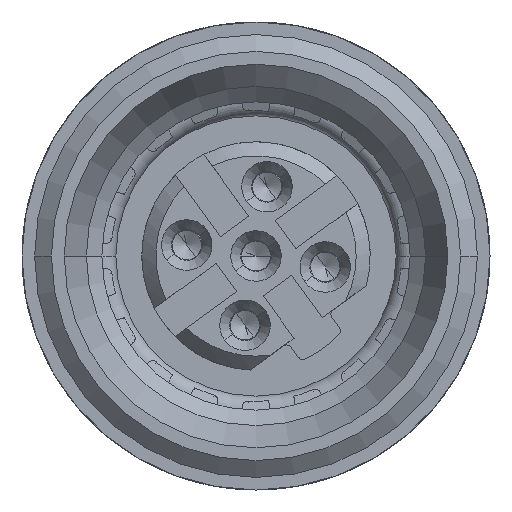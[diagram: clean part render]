
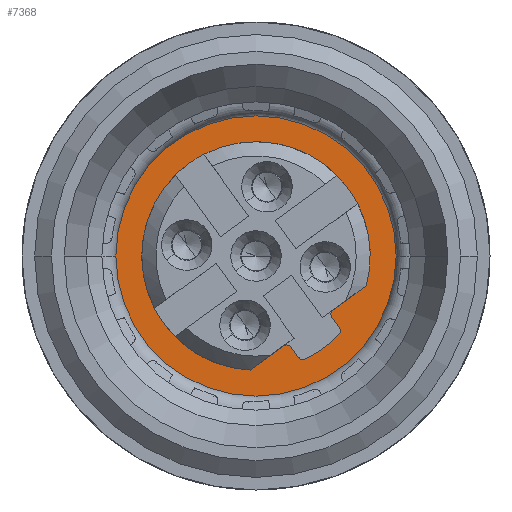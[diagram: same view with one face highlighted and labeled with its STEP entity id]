
A CAD part, left-side view. The second image highlights one B-rep face of the part: STEP entity #7368.
In plain terms, the highlighted planar face has unit normal (-1, 0, 0) as drawn and (0, 0, 1) by its records, which use the part's own axes.
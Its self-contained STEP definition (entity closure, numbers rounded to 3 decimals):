
#5625=CARTESIAN_POINT('',(0.,0.,-9.2));
#5626=DIRECTION('',(0.,0.,-1.));
#5627=DIRECTION('',(0.,1.,0.));
#5628=AXIS2_PLACEMENT_3D('',#5625,#5626,#5627);
#5630=CARTESIAN_POINT('',(0.,0.,-9.2));
#5631=DIRECTION('',(0.,0.,-1.));
#5632=DIRECTION('',(0.,-1.,0.));
#5633=AXIS2_PLACEMENT_3D('',#5630,#5631,#5632);
#5635=CARTESIAN_POINT('',(0.,0.,-9.2));
#5636=DIRECTION('',(0.,0.,1.));
#5637=DIRECTION('',(0.181,0.984,0.));
#5638=AXIS2_PLACEMENT_3D('',#5635,#5636,#5637);
#5640=CARTESIAN_POINT('',(-0.7,3.811,-9.2));
#5641=DIRECTION('',(0.,0.,1.));
#5642=DIRECTION('',(-0.181,0.984,0.));
#5643=AXIS2_PLACEMENT_3D('',#5640,#5641,#5642);
#5645=DIRECTION('',(0.,-1.,0.));
#5646=VECTOR('',#5645,0.441);
#5647=CARTESIAN_POINT('',(-0.9,3.811,-9.2));
#5648=LINE('',#5647,#5646);
#5649=CARTESIAN_POINT('',(-1.1,3.37,-9.2));
#5650=DIRECTION('',(0.,0.,-1.));
#5651=DIRECTION('',(1.,0.,0.));
#5652=AXIS2_PLACEMENT_3D('',#5649,#5650,#5651);
#5654=CARTESIAN_POINT('',(0.,0.,-9.2));
#5655=DIRECTION('',(0.,0.,1.));
#5656=DIRECTION('',(-0.628,0.778,0.));
#5657=AXIS2_PLACEMENT_3D('',#5654,#5655,#5656);
#5659=CARTESIAN_POINT('',(0.,0.,-9.2));
#5660=DIRECTION('',(0.,0.,1.));
#5661=DIRECTION('',(0.,-1.,0.));
#5662=AXIS2_PLACEMENT_3D('',#5659,#5660,#5661);
#5664=CARTESIAN_POINT('',(1.1,3.37,-9.2));
#5665=DIRECTION('',(0.,0.,-1.));
#5666=DIRECTION('',(0.,-1.,0.));
#5667=AXIS2_PLACEMENT_3D('',#5664,#5665,#5666);
#5669=DIRECTION('',(0.,1.,0.));
#5670=VECTOR('',#5669,0.441);
#5671=CARTESIAN_POINT('',(0.9,3.37,-9.2));
#5672=LINE('',#5671,#5670);
#5673=CARTESIAN_POINT('',(0.7,3.811,-9.2));
#5674=DIRECTION('',(0.,0.,1.));
#5675=DIRECTION('',(1.,0.,0.));
#5676=AXIS2_PLACEMENT_3D('',#5673,#5674,#5675);
#5702=DIRECTION('',(1.,0.,0.));
#5703=VECTOR('',#5702,1.461);
#5704=CARTESIAN_POINT('',(1.1,3.17,-9.2));
#5705=LINE('',#5704,#5703);
#5742=DIRECTION('',(1.,0.,0.));
#5743=VECTOR('',#5742,1.461);
#5744=CARTESIAN_POINT('',(-2.561,3.17,-9.2));
#5745=LINE('',#5744,#5743);
#6843=CARTESIAN_POINT('',(0.,5.5,-9.2));
#6844=VERTEX_POINT('',#6843);
#6845=CARTESIAN_POINT('',(0.,-5.5,-9.2));
#6846=VERTEX_POINT('',#6845);
#6847=CARTESIAN_POINT('',(0.736,4.008,-9.2));
#6848=CARTESIAN_POINT('',(-0.736,4.008,-9.2));
#6849=VERTEX_POINT('',#6847);
#6850=VERTEX_POINT('',#6848);
#6851=CARTESIAN_POINT('',(-0.9,3.811,-9.2));
#6852=VERTEX_POINT('',#6851);
#6853=CARTESIAN_POINT('',(-0.9,3.37,-9.2));
#6854=VERTEX_POINT('',#6853);
#6855=CARTESIAN_POINT('',(-1.1,3.17,-9.2));
#6856=VERTEX_POINT('',#6855);
#6857=CARTESIAN_POINT('',(-2.561,3.17,-9.2));
#6858=VERTEX_POINT('',#6857);
#6859=CARTESIAN_POINT('',(0.,-4.075,-9.2));
#6860=VERTEX_POINT('',#6859);
#6861=CARTESIAN_POINT('',(2.561,3.17,-9.2));
#6862=VERTEX_POINT('',#6861);
#6863=CARTESIAN_POINT('',(1.1,3.17,-9.2));
#6864=VERTEX_POINT('',#6863);
#6865=CARTESIAN_POINT('',(0.9,3.37,-9.2));
#6866=VERTEX_POINT('',#6865);
#6867=CARTESIAN_POINT('',(0.9,3.811,-9.2));
#6868=VERTEX_POINT('',#6867);
#7335=CARTESIAN_POINT('',(0.,0.,-9.2));
#7336=DIRECTION('',(0.,0.,-1.));
#7337=DIRECTION('',(0.,-1.,0.));
#7338=AXIS2_PLACEMENT_3D('',#7335,#7336,#7337);
#7339=PLANE('',#7338);
#7340=ORIENTED_EDGE('',*,*,#7330,.T.);
#7341=ORIENTED_EDGE('',*,*,#7314,.T.);
#7342=EDGE_LOOP('',(#7340,#7341));
#7343=FACE_OUTER_BOUND('',#7342,.F.);
#7345=ORIENTED_EDGE('',*,*,#7344,.T.);
#7347=ORIENTED_EDGE('',*,*,#7346,.T.);
#7349=ORIENTED_EDGE('',*,*,#7348,.T.);
#7351=ORIENTED_EDGE('',*,*,#7350,.T.);
#7353=ORIENTED_EDGE('',*,*,#7352,.F.);
#7355=ORIENTED_EDGE('',*,*,#7354,.T.);
#7357=ORIENTED_EDGE('',*,*,#7356,.T.);
#7359=ORIENTED_EDGE('',*,*,#7358,.F.);
#7361=ORIENTED_EDGE('',*,*,#7360,.T.);
#7363=ORIENTED_EDGE('',*,*,#7362,.T.);
#7365=ORIENTED_EDGE('',*,*,#7364,.T.);
#7366=EDGE_LOOP('',(#7345,#7347,#7349,#7351,#7353,#7355,#7357,#7359,#7361,#7363,
#7365));
#7367=FACE_BOUND('',#7366,.F.);
#7368=ADVANCED_FACE('',(#7343,#7367),#7339,.F.);
#5629=CIRCLE('',#5628,5.5);
#5634=CIRCLE('',#5633,5.5);
#5639=CIRCLE('',#5638,4.075);
#5644=CIRCLE('',#5643,0.2);
#5653=CIRCLE('',#5652,0.2);
#5658=CIRCLE('',#5657,4.075);
#5663=CIRCLE('',#5662,4.075);
#5668=CIRCLE('',#5667,0.2);
#5677=CIRCLE('',#5676,0.2);
#7314=EDGE_CURVE('',#6846,#6844,#5634,.T.);
#7330=EDGE_CURVE('',#6844,#6846,#5629,.T.);
#7344=EDGE_CURVE('',#6849,#6850,#5639,.T.);
#7346=EDGE_CURVE('',#6850,#6852,#5644,.T.);
#7348=EDGE_CURVE('',#6852,#6854,#5648,.T.);
#7350=EDGE_CURVE('',#6854,#6856,#5653,.T.);
#7352=EDGE_CURVE('',#6858,#6856,#5745,.T.);
#7354=EDGE_CURVE('',#6858,#6860,#5658,.T.);
#7356=EDGE_CURVE('',#6860,#6862,#5663,.T.);
#7358=EDGE_CURVE('',#6864,#6862,#5705,.T.);
#7360=EDGE_CURVE('',#6864,#6866,#5668,.T.);
#7362=EDGE_CURVE('',#6866,#6868,#5672,.T.);
#7364=EDGE_CURVE('',#6868,#6849,#5677,.T.);
